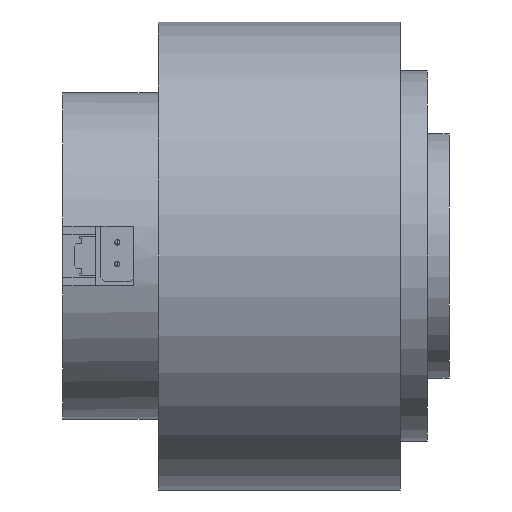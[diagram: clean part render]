
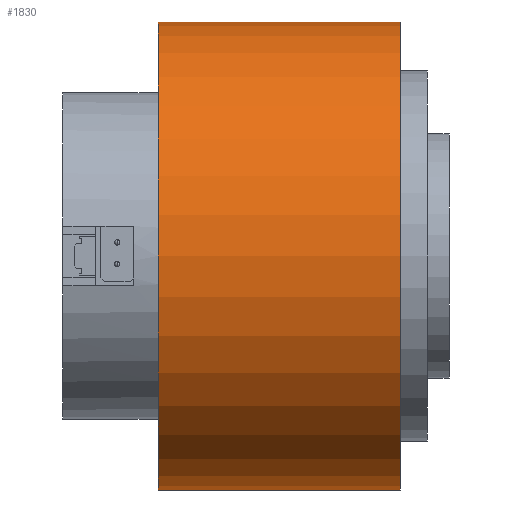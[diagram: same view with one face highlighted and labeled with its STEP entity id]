
A CAD part, left-side view. The second image highlights one B-rep face of the part: STEP entity #1830.
In plain terms, the highlighted cylindrical face has radius 43 mm (diameter 86 mm), a partial arc.
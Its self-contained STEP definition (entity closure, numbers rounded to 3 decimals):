
#215 = CARTESIAN_POINT ( 'NONE',  ( 0., 53.5, 43. ) ) ;
#229 = ORIENTED_EDGE ( 'NONE', *, *, #3904, .F. ) ;
#259 = CYLINDRICAL_SURFACE ( 'NONE', #2579, 43. ) ;
#283 = EDGE_CURVE ( 'NONE', #6009, #2509, #4854, .T. ) ;
#606 = CIRCLE ( 'NONE', #5970, 43. ) ;
#658 = EDGE_LOOP ( 'NONE', ( #229, #3116, #5015, #6397 ) ) ;
#1053 = CARTESIAN_POINT ( 'NONE',  ( 0., 53.5, 0. ) ) ;
#1107 = CARTESIAN_POINT ( 'NONE',  ( 0., 9., 43. ) ) ;
#1830 = ADVANCED_FACE ( 'NONE', ( #2525 ), #259, .T. ) ;
#2204 = DIRECTION ( 'NONE',  ( 0., 0., 1. ) ) ;
#2327 = EDGE_CURVE ( 'NONE', #2509, #5755, #3280, .T. ) ;
#2487 = CARTESIAN_POINT ( 'NONE',  ( 0., 53.5, 0. ) ) ;
#2509 = VERTEX_POINT ( 'NONE', #4604 ) ;
#2512 = LINE ( 'NONE', #215, #3862 ) ;
#2525 = FACE_OUTER_BOUND ( 'NONE', #658, .T. ) ;
#2546 = CARTESIAN_POINT ( 'NONE',  ( 0., 9., 0. ) ) ;
#2579 = AXIS2_PLACEMENT_3D ( 'NONE', #2487, #5694, #6366 ) ;
#3048 = DIRECTION ( 'NONE',  ( 0., -1., 0. ) ) ;
#3064 = CARTESIAN_POINT ( 'NONE',  ( 0., 53.5, -43. ) ) ;
#3116 = ORIENTED_EDGE ( 'NONE', *, *, #3225, .F. ) ;
#3225 = EDGE_CURVE ( 'NONE', #6009, #3986, #606, .T. ) ;
#3280 = CIRCLE ( 'NONE', #6090, 43. ) ;
#3694 = CARTESIAN_POINT ( 'NONE',  ( 0., 53.5, -43. ) ) ;
#3862 = VECTOR ( 'NONE', #3048, 1000. ) ;
#3904 = EDGE_CURVE ( 'NONE', #3986, #5755, #2512, .T. ) ;
#3986 = VERTEX_POINT ( 'NONE', #4614 ) ;
#4604 = CARTESIAN_POINT ( 'NONE',  ( 0., 9., -43. ) ) ;
#4614 = CARTESIAN_POINT ( 'NONE',  ( 0., 53.5, 43. ) ) ;
#4765 = VECTOR ( 'NONE', #5892, 1000. ) ;
#4854 = LINE ( 'NONE', #3064, #4765 ) ;
#4905 = DIRECTION ( 'NONE',  ( 0., 0., 1. ) ) ;
#4964 = DIRECTION ( 'NONE',  ( 0., 1., 0. ) ) ;
#5015 = ORIENTED_EDGE ( 'NONE', *, *, #283, .T. ) ;
#5384 = DIRECTION ( 'NONE',  ( 0., 1., 0. ) ) ;
#5694 = DIRECTION ( 'NONE',  ( 0., -1., 0. ) ) ;
#5755 = VERTEX_POINT ( 'NONE', #1107 ) ;
#5892 = DIRECTION ( 'NONE',  ( 0., -1., 0. ) ) ;
#5970 = AXIS2_PLACEMENT_3D ( 'NONE', #1053, #4964, #2204 ) ;
#6009 = VERTEX_POINT ( 'NONE', #3694 ) ;
#6090 = AXIS2_PLACEMENT_3D ( 'NONE', #2546, #5384, #4905 ) ;
#6366 = DIRECTION ( 'NONE',  ( 0., 0., -1. ) ) ;
#6397 = ORIENTED_EDGE ( 'NONE', *, *, #2327, .T. ) ;
